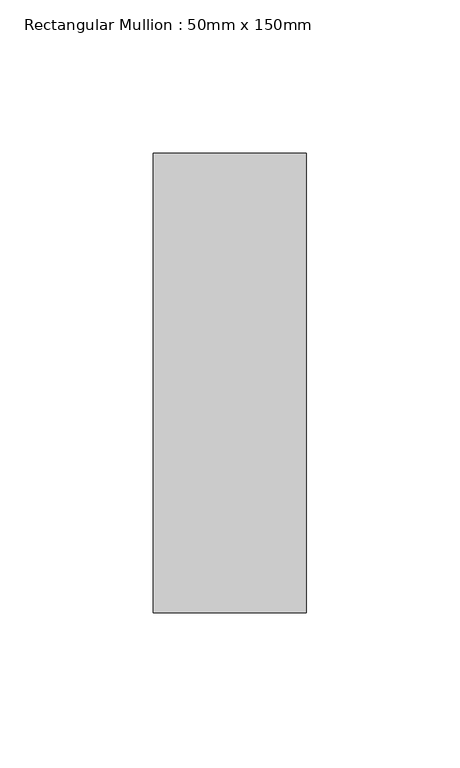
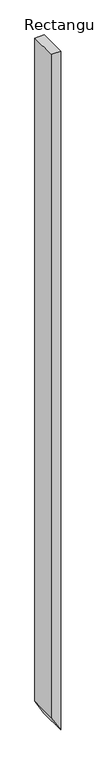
"""IFC4 building model written with IfcOpenShell, lengths in millimetres: member geometry, Rectangular Mullion : 50mm x 150mm."""

from ifc_helpers import new_model, si_unit, frame, origin, place, context, project, spatial, polyline, outline, extrude, source, transform, mapped, element, save


def rectangular_mullion_50mm_x_150mm_0d151f9d(model_context):
    return source(origin(), model_context, "Body", "SweptSolid", [
        extrude(outline(polyline([(0.0, 25.0), (0.0, -25.0), (-3721.6084818, -25.0), (-3808.2110221, 25.0), (0.0, 25.0)])), frame((0.0, -75.0, 0.0), z_axis=(0.0, 1.0, 0.0), x_axis=(0.0, 0.0, 1.0)), (0.0, 0.0, 1.0), 150.0),
    ])


if __name__ == "__main__":
    model = new_model("IFC4")
    model_context = context("Model", 3, world=origin())
    ifc_project = project(units=[si_unit("LENGTHUNIT", "METRE", prefix="MILLI")], contexts=[model_context])
    site = spatial("IfcSite", under=ifc_project)
    building = spatial("IfcBuilding", under=site)
    placement = place(None, origin())
    rectangular_mullion_50mm_x_150mm_shape = rectangular_mullion_50mm_x_150mm_0d151f9d(model_context)
    element("IfcMember", 1, ObjectType="Rectangular Mullion : 50mm x 150mm", at=placement, inside=building, context=model_context, shape_type="MappedRepresentation", body=[
        mapped(rectangular_mullion_50mm_x_150mm_shape, transform((0.0, 0.0, 0.0), x_axis=(1.0, 0.0, 0.0), y_axis=(0.0, 1.0, 0.0), z_axis=(0.0, 0.0, 1.0))),
    ])
    save(model, "model.ifc")
